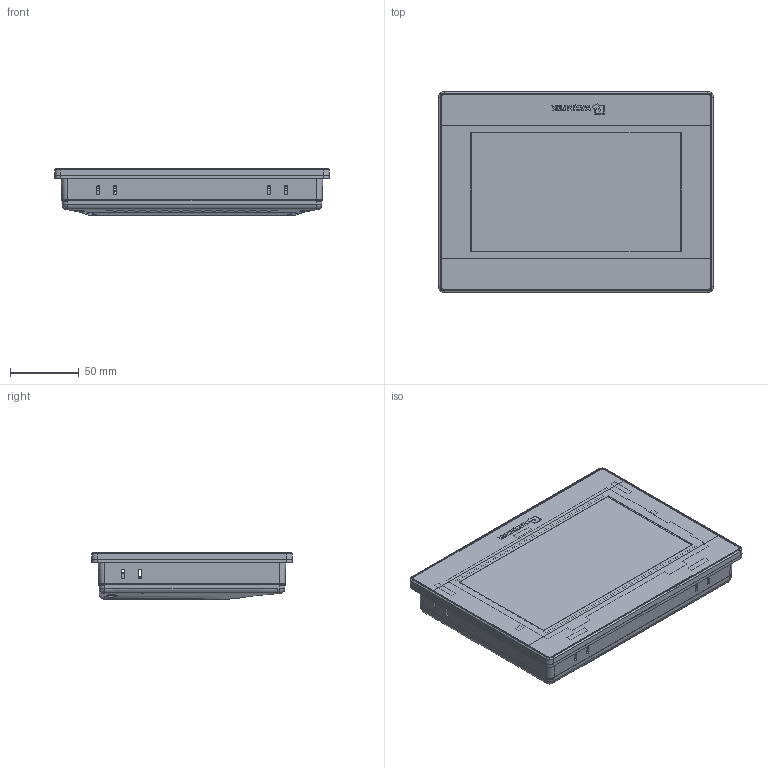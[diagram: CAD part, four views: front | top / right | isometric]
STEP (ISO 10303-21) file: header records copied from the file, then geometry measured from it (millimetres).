
FILE_DESCRIPTION (( 'STEP AP203' ), '1' );
FILE_NAME ('MT6071iP_160324.STEP', '2017-07-28T03:09:53', ( 'annayang' ), ( '' ), 'SwSTEP 2.0', 'SolidWorks 2011', '' );
FILE_SCHEMA (( 'CONFIG_CONTROL_DESIGN' ));
Products named in the file (1): MT6071iP_160324
Bounding box: 200.4 x 146.5 x 34.2 mm (x, y, z)
Surface area: 115689.2 mm2 (no closed solid volume)
Topology: 0 solids, 92 shells, 963 faces, 4087 edges, 3068 vertices
Faces by surface type: plane 335, cylinder 320, bspline 232, cone 44, sphere 26, torus 6
Entity records: 68415 total; most frequent: CARTESIAN_POINT 39353, ORIENTED_EDGE 6004, DIRECTION 4640, EDGE_CURVE 4042, VERTEX_POINT 3050, LINE 2178, VECTOR 2178, AXIS2_PLACEMENT_3D 1231
